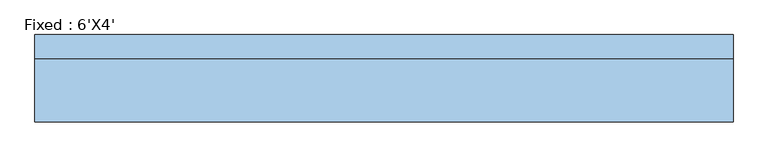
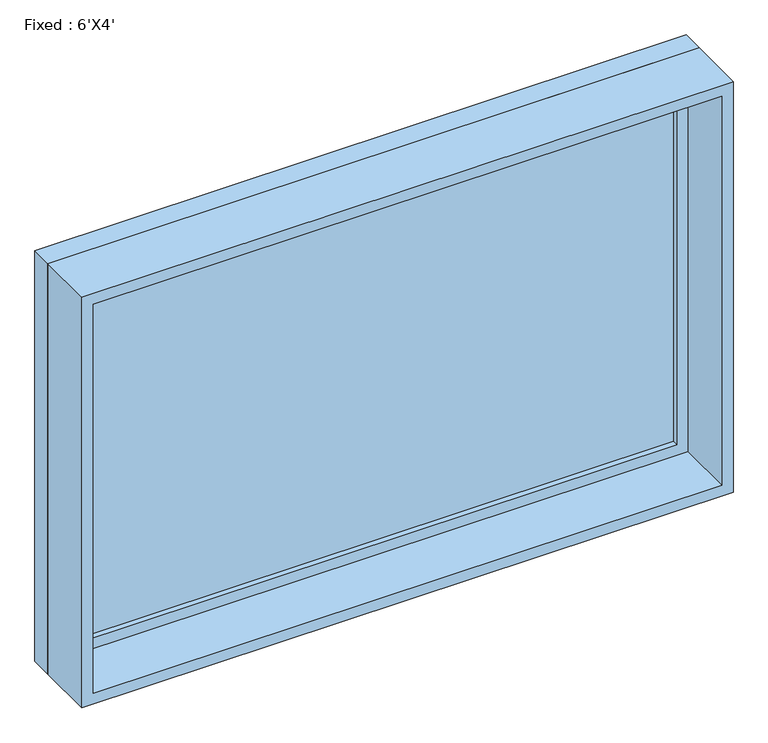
"""IFC4 building model written with IfcOpenShell, lengths in millimetres: window geometry, Fixed : 6'X4'."""

from ifc_helpers import new_model, si_unit, frame, origin, place, context, project, spatial, polyline, outline, extrude, source, transform, mapped, element, save


def fixed_6_x4_abaca003(model_context):
    return source(origin(), model_context, "Body", "SweptSolid", [
        extrude(outline(polyline([(812.8, 66.675), (-889.0, 66.675), (-889.0, 79.375), (812.8, 79.375), (812.8, 66.675)])), frame((0.0, 0.0, 977.9), z_axis=(0.0, 0.0, 1.0), x_axis=(1.0, 0.0, 0.0)), (0.0, 0.0, 1.0), 1092.2),
        extrude(outline(polyline([(2114.55, -933.45), (933.45, -933.45), (933.45, 857.25), (2114.55, 857.25), (2114.55, -933.45)]), holes=[polyline([(2070.1, -889.0), (2070.1, 812.8), (977.9, 812.8), (977.9, -889.0), (2070.1, -889.0)])]), frame((0.0, 50.8, 0.0), z_axis=(0.0, 1.0, 0.0), x_axis=(0.0, 0.0, 1.0)), (0.0, 0.0, 1.0), 44.45),
        extrude(outline(polyline([(2133.6, -952.5), (914.4, -952.5), (914.4, 876.3), (2133.6, 876.3), (2133.6, -952.5)]), holes=[polyline([(2101.85, -920.75), (2101.85, 844.55), (946.15, 844.55), (946.15, -920.75), (2101.85, -920.75)])]), frame((0.0, -114.3, 0.0), z_axis=(0.0, 1.0, 0.0), x_axis=(0.0, 0.0, 1.0)), (0.0, 0.0, 1.0), 165.1),
        extrude(outline(polyline([(2133.6, 876.3), (2133.6, -952.5), (914.4, -952.5), (914.4, 876.3), (2133.6, 876.3)]), holes=[polyline([(2114.55, 857.25), (933.45, 857.25), (933.45, -933.45), (2114.55, -933.45), (2114.55, 857.25)])]), frame((0.0, 50.8, 0.0), z_axis=(0.0, 1.0, 0.0), x_axis=(0.0, 0.0, 1.0)), (0.0, 0.0, 1.0), 63.5),
    ])


if __name__ == "__main__":
    model = new_model("IFC4")
    model_context = context("Model", 3, world=origin())
    ifc_project = project(units=[si_unit("LENGTHUNIT", "METRE", prefix="MILLI")], contexts=[model_context])
    site = spatial("IfcSite", under=ifc_project)
    building = spatial("IfcBuilding", under=site)
    placement = place(None, origin())
    fixed_6_x4_shape = fixed_6_x4_abaca003(model_context)
    element("IfcWindow", 1, ObjectType="Fixed : 6'X4'", at=placement, inside=building, context=model_context, shape_type="MappedRepresentation", body=[
        mapped(fixed_6_x4_shape, transform((0.0, 0.0, 0.0), x_axis=(1.0, 0.0, 0.0), y_axis=(0.0, 1.0, 0.0), z_axis=(0.0, 0.0, 1.0))),
    ])
    save(model, "model.ifc")
